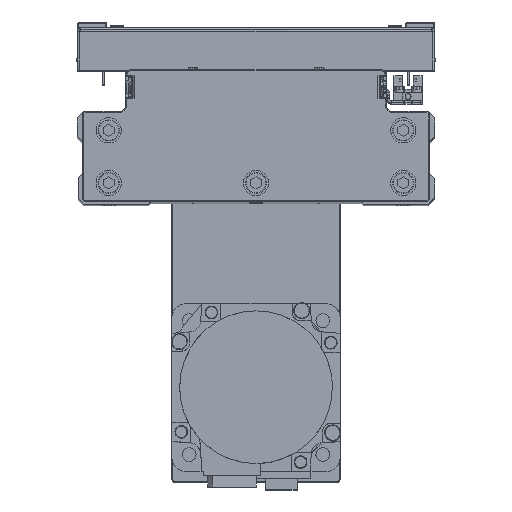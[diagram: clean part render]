
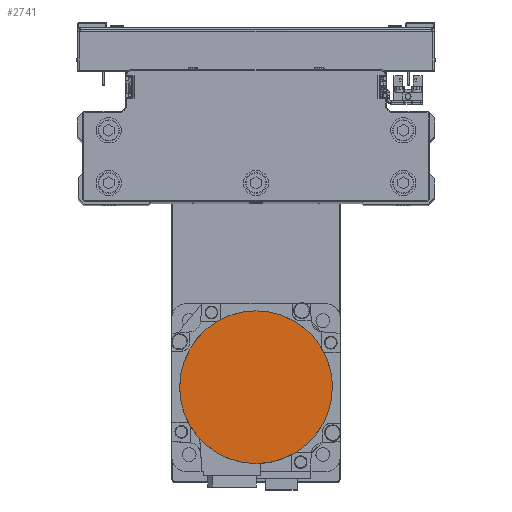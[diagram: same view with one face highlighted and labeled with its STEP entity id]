
A CAD part, top view. The second image highlights one B-rep face of the part: STEP entity #2741.
In plain terms, the highlighted planar face has unit normal (0, 0, 1) as drawn and (0, 0, -1) by its records, which use the part's own axes.
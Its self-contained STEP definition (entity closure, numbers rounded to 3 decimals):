
#699 = CARTESIAN_POINT ( 'NONE',  ( -32.628, -16.086, -122.2 ) ) ;
#1900 = DIRECTION ( 'NONE',  ( -1., 0., 0. ) ) ;
#1993 = CARTESIAN_POINT ( 'NONE',  ( 0., 36.3, -122.2 ) ) ;
#2741 = ADVANCED_FACE ( 'NONE', ( #40091 ), #9667, .F. ) ;
#3044 = CARTESIAN_POINT ( 'NONE',  ( -22.143, 28.862, -122.2 ) ) ;
#3850 = CARTESIAN_POINT ( 'NONE',  ( 0., -36.3, -122.2 ) ) ;
#4008 = CARTESIAN_POINT ( 'NONE',  ( -36.066, -4.752, -122.2 ) ) ;
#4234 = CARTESIAN_POINT ( 'NONE',  ( -4.752, -36.066, -122.2 ) ) ;
#5306 = B_SPLINE_CURVE_WITH_KNOTS ( 'NONE', 3,
 ( #40096, #9671, #23220, #36764, #6358, #19893, #33444, #3044, #16566, #30093, #43653, #13236, #26775, #40322, #9897, #23446, #36992, #6582 ),
 .UNSPECIFIED., .F., .F.,
 ( 4, 2, 2, 2, 2, 2, 2, 2, 4 ),
 ( 0., 0.125, 0.25, 0.375, 0.5, 0.625, 0.75, 0.875, 1. ),
 .UNSPECIFIED. ) ;
#6354 = DIRECTION ( 'NONE',  ( 1., 0., 0. ) ) ;
#6358 = CARTESIAN_POINT ( 'NONE',  ( -11.696, 34.446, -122.2 ) ) ;
#6582 = CARTESIAN_POINT ( 'NONE',  ( -36.3, 0., -122.2 ) ) ;
#6593 = DIRECTION ( 'NONE',  ( 0., 0., 1. ) ) ;
#7182 = EDGE_CURVE ( 'NONE', #33470, #36458, #22265, .T. ) ;
#7549 = CARTESIAN_POINT ( 'NONE',  ( -16.086, -32.628, -122.2 ) ) ;
#8870 = CIRCLE ( 'NONE', #33687, 36.3 ) ;
#9667 = PLANE ( 'NONE',  #32584 ) ;
#9671 = CARTESIAN_POINT ( 'NONE',  ( -2.376, 36.3, -122.2 ) ) ;
#9897 = CARTESIAN_POINT ( 'NONE',  ( -35.139, 9.412, -122.2 ) ) ;
#10893 = CARTESIAN_POINT ( 'NONE',  ( -23.988, -27.348, -122.2 ) ) ;
#13236 = CARTESIAN_POINT ( 'NONE',  ( -31.502, 18.192, -122.2 ) ) ;
#14173 = AXIS2_PLACEMENT_3D ( 'NONE', #18753, #32296, #1900 ) ;
#14229 = CARTESIAN_POINT ( 'NONE',  ( -31.502, -18.192, -122.2 ) ) ;
#15128 = VERTEX_POINT ( 'NONE', #1993 ) ;
#16566 = CARTESIAN_POINT ( 'NONE',  ( -23.988, 27.348, -122.2 ) ) ;
#17544 = CARTESIAN_POINT ( 'NONE',  ( -35.139, -9.412, -122.2 ) ) ;
#17766 = CARTESIAN_POINT ( 'NONE',  ( -2.376, -36.3, -122.2 ) ) ;
#18753 = CARTESIAN_POINT ( 'NONE',  ( 0., 0., -122.2 ) ) ;
#19163 = ORIENTED_EDGE ( 'NONE', *, *, #7182, .F. ) ;
#19893 = CARTESIAN_POINT ( 'NONE',  ( -16.086, 32.628, -122.2 ) ) ;
#20124 = DIRECTION ( 'NONE',  ( -1., 0., 0. ) ) ;
#20873 = CARTESIAN_POINT ( 'NONE',  ( -36.3, 0., -122.2 ) ) ;
#21092 = CARTESIAN_POINT ( 'NONE',  ( -11.696, -34.446, -122.2 ) ) ;
#21412 = VERTEX_POINT ( 'NONE', #25057 ) ;
#21922 = EDGE_CURVE ( 'NONE', #21412, #15128, #33300, .T. ) ;
#22265 = B_SPLINE_CURVE_WITH_KNOTS ( 'NONE', 3,
 ( #20873, #34429, #4008, #17544, #31088, #699, #14229, #27771, #41317, #10893, #24421, #37966, #7549, #21092, #34646, #4234, #17766, #31310 ),
 .UNSPECIFIED., .F., .F.,
 ( 4, 2, 2, 2, 2, 2, 2, 2, 4 ),
 ( 0., 0.125, 0.25, 0.375, 0.5, 0.625, 0.75, 0.875, 1. ),
 .UNSPECIFIED. ) ;
#23215 = CARTESIAN_POINT ( 'NONE',  ( 0., 0., -122.2 ) ) ;
#23220 = CARTESIAN_POINT ( 'NONE',  ( -4.752, 36.066, -122.2 ) ) ;
#23446 = CARTESIAN_POINT ( 'NONE',  ( -36.066, 4.752, -122.2 ) ) ;
#24421 = CARTESIAN_POINT ( 'NONE',  ( -22.143, -28.862, -122.2 ) ) ;
#25057 = CARTESIAN_POINT ( 'NONE',  ( 36.3, 0., -122.2 ) ) ;
#26775 = CARTESIAN_POINT ( 'NONE',  ( -32.628, 16.086, -122.2 ) ) ;
#27771 = CARTESIAN_POINT ( 'NONE',  ( -28.862, -22.143, -122.2 ) ) ;
#28658 = ORIENTED_EDGE ( 'NONE', *, *, #34605, .F. ) ;
#30093 = CARTESIAN_POINT ( 'NONE',  ( -27.348, 23.988, -122.2 ) ) ;
#31088 = CARTESIAN_POINT ( 'NONE',  ( -34.446, -11.696, -122.2 ) ) ;
#31310 = CARTESIAN_POINT ( 'NONE',  ( 0., -36.3, -122.2 ) ) ;
#32296 = DIRECTION ( 'NONE',  ( 0., 0., 1. ) ) ;
#32584 = AXIS2_PLACEMENT_3D ( 'NONE', #23215, #36759, #6354 ) ;
#33300 = CIRCLE ( 'NONE', #14173, 36.3 ) ;
#33444 = CARTESIAN_POINT ( 'NONE',  ( -18.192, 31.502, -122.2 ) ) ;
#33470 = VERTEX_POINT ( 'NONE', #43884 ) ;
#33687 = AXIS2_PLACEMENT_3D ( 'NONE', #37005, #6593, #20124 ) ;
#34429 = CARTESIAN_POINT ( 'NONE',  ( -36.3, -2.376, -122.2 ) ) ;
#34605 = EDGE_CURVE ( 'NONE', #36458, #21412, #8870, .T. ) ;
#34646 = CARTESIAN_POINT ( 'NONE',  ( -9.412, -35.139, -122.2 ) ) ;
#35973 = EDGE_LOOP ( 'NONE', ( #28658, #19163, #37291, #40769 ) ) ;
#36458 = VERTEX_POINT ( 'NONE', #3850 ) ;
#36759 = DIRECTION ( 'NONE',  ( 0., 0., 1. ) ) ;
#36764 = CARTESIAN_POINT ( 'NONE',  ( -9.412, 35.139, -122.2 ) ) ;
#36992 = CARTESIAN_POINT ( 'NONE',  ( -36.3, 2.376, -122.2 ) ) ;
#37005 = CARTESIAN_POINT ( 'NONE',  ( 0., 0., -122.2 ) ) ;
#37291 = ORIENTED_EDGE ( 'NONE', *, *, #42085, .F. ) ;
#37966 = CARTESIAN_POINT ( 'NONE',  ( -18.192, -31.502, -122.2 ) ) ;
#40091 = FACE_OUTER_BOUND ( 'NONE', #35973, .T. ) ;
#40096 = CARTESIAN_POINT ( 'NONE',  ( 0., 36.3, -122.2 ) ) ;
#40322 = CARTESIAN_POINT ( 'NONE',  ( -34.446, 11.696, -122.2 ) ) ;
#40769 = ORIENTED_EDGE ( 'NONE', *, *, #21922, .F. ) ;
#41317 = CARTESIAN_POINT ( 'NONE',  ( -27.348, -23.988, -122.2 ) ) ;
#42085 = EDGE_CURVE ( 'NONE', #15128, #33470, #5306, .T. ) ;
#43653 = CARTESIAN_POINT ( 'NONE',  ( -28.862, 22.143, -122.2 ) ) ;
#43884 = CARTESIAN_POINT ( 'NONE',  ( -36.3, 0., -122.2 ) ) ;
